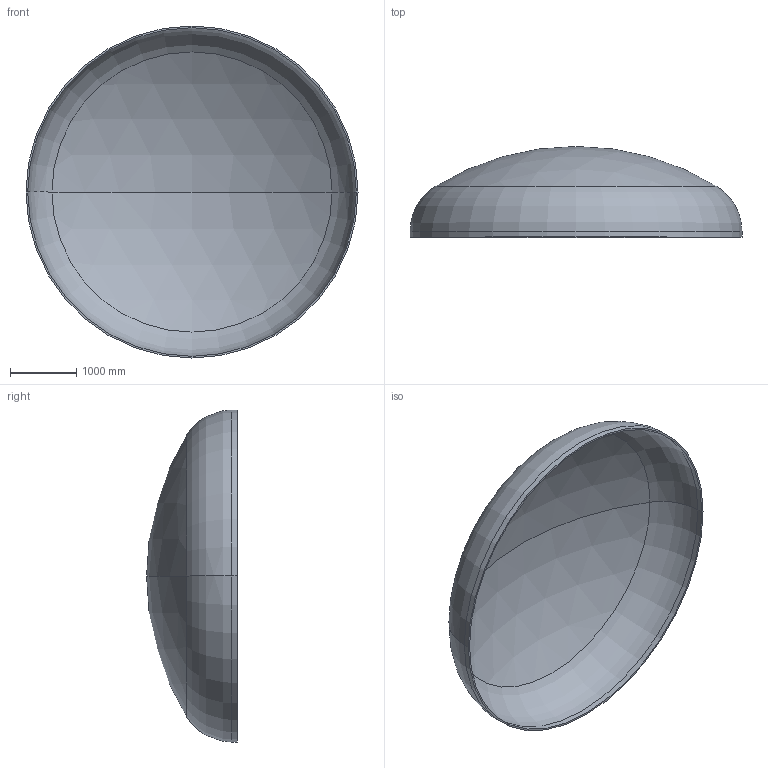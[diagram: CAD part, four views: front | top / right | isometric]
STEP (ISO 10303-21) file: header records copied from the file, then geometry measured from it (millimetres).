
FILE_DESCRIPTION (( 'STEP AP203' ), '1' );
FILE_NAME ('DIN 28013 Korbbogenform_-_Boden DIN 28013 - 5000 x 85 - I - s=26.step', '2016-07-02T00:16:25', ( '' ), ( '' ), 'SwSTEP 2.0', 'SolidWorks 2013', '' );
FILE_SCHEMA (( 'CONFIG_CONTROL_DESIGN' ));
Length unit declared in the file: millimetre
Products named in the file (1): DIN 28013 Korbbogenform_-_Boden DIN 28013 - 5000 x 85 - I - s=26
Bounding box: 5000 x 1367.05 x 5000 mm (x, y, z)
Volume: 736760260.2 mm3; surface area: 57081543 mm2
Topology: 1 solids, 1 shells, 13 faces, 24 edges, 14 vertices
Faces by surface type: torus 4, cylinder 4, sphere 4, plane 1
Entity records: 407 total; most frequent: DIRECTION 72, CARTESIAN_POINT 52, ORIENTED_EDGE 48, AXIS2_PLACEMENT_3D 34, EDGE_CURVE 24, CIRCLE 20, VERTEX_POINT 14, EDGE_LOOP 14
